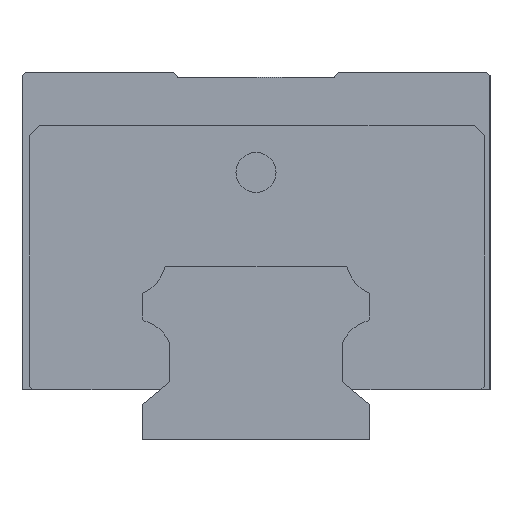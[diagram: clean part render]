
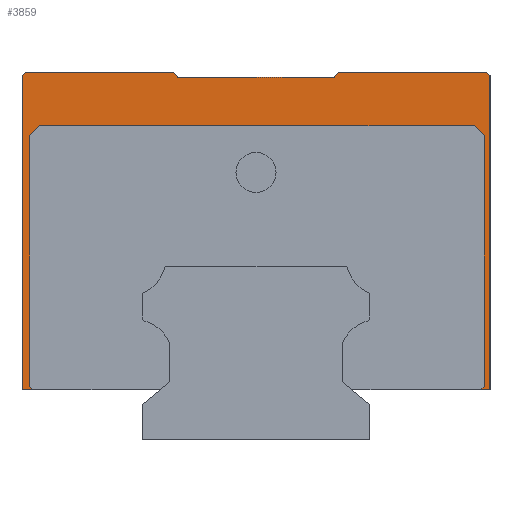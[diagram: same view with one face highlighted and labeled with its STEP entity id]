
A CAD part, left-side view. The second image highlights one B-rep face of the part: STEP entity #3859.
In plain terms, the highlighted planar face has unit normal (-1, 0, 0).
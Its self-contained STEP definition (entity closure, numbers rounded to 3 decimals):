
#14 = CARTESIAN_POINT ( 'NONE',  ( -61.5, -35., 55. ) ) ;
#85 = CARTESIAN_POINT ( 'NONE',  ( -61.5, 35., 7.5 ) ) ;
#238 = VERTEX_POINT ( 'NONE', #2294 ) ;
#302 = ORIENTED_EDGE ( 'NONE', *, *, #772, .F. ) ;
#323 = VERTEX_POINT ( 'NONE', #3578 ) ;
#327 = AXIS2_PLACEMENT_3D ( 'NONE', #1872, #4140, #3259 ) ;
#334 = VECTOR ( 'NONE', #4214, 1000. ) ;
#337 = LINE ( 'NONE', #2172, #5703 ) ;
#349 = CARTESIAN_POINT ( 'NONE',  ( -61.5, -34.128, 8. ) ) ;
#414 = EDGE_CURVE ( 'NONE', #2334, #4968, #5513, .T. ) ;
#430 = VECTOR ( 'NONE', #2985, 1000. ) ;
#494 = LINE ( 'NONE', #3697, #4756 ) ;
#496 = VECTOR ( 'NONE', #5434, 1000. ) ;
#553 = LINE ( 'NONE', #4460, #496 ) ;
#581 = LINE ( 'NONE', #5009, #2427 ) ;
#602 = CARTESIAN_POINT ( 'NONE',  ( -61.5, 33.872, 45.5 ) ) ;
#720 = CARTESIAN_POINT ( 'NONE',  ( -61.5, -35., 54.5 ) ) ;
#769 = LINE ( 'NONE', #5353, #1288 ) ;
#772 = EDGE_CURVE ( 'NONE', #1067, #3411, #5023, .T. ) ;
#810 = EDGE_CURVE ( 'NONE', #3972, #2204, #4301, .T. ) ;
#847 = CARTESIAN_POINT ( 'NONE',  ( -61.5, 34.5, 55. ) ) ;
#945 = FACE_OUTER_BOUND ( 'NONE', #3504, .T. ) ;
#955 = EDGE_CURVE ( 'NONE', #3630, #2608, #4793, .T. ) ;
#964 = CARTESIAN_POINT ( 'NONE',  ( -61.5, -33.628, 7.5 ) ) ;
#1010 = DIRECTION ( 'NONE',  ( 0., 0.707, -0.707 ) ) ;
#1051 = LINE ( 'NONE', #964, #334 ) ;
#1067 = VERTEX_POINT ( 'NONE', #4530 ) ;
#1072 = EDGE_CURVE ( 'NONE', #2204, #1067, #3639, .T. ) ;
#1134 = CARTESIAN_POINT ( 'NONE',  ( -61.5, -35., 54.5 ) ) ;
#1146 = CARTESIAN_POINT ( 'NONE',  ( -61.5, -11.667, 54.25 ) ) ;
#1187 = LINE ( 'NONE', #720, #2203 ) ;
#1263 = VECTOR ( 'NONE', #5281, 1000. ) ;
#1288 = VECTOR ( 'NONE', #4886, 1000. ) ;
#1306 = VERTEX_POINT ( 'NONE', #5133 ) ;
#1362 = CARTESIAN_POINT ( 'NONE',  ( -61.5, 33.872, 8. ) ) ;
#1431 = ORIENTED_EDGE ( 'NONE', *, *, #1829, .T. ) ;
#1458 = DIRECTION ( 'NONE',  ( 0., 1., 0. ) ) ;
#1527 = LINE ( 'NONE', #3790, #1954 ) ;
#1567 = EDGE_CURVE ( 'NONE', #2600, #1876, #4924, .T. ) ;
#1604 = EDGE_CURVE ( 'NONE', #4420, #3350, #553, .T. ) ;
#1715 = VECTOR ( 'NONE', #5483, 1000. ) ;
#1797 = ORIENTED_EDGE ( 'NONE', *, *, #1604, .F. ) ;
#1829 = EDGE_CURVE ( 'NONE', #2600, #3350, #1187, .T. ) ;
#1872 = CARTESIAN_POINT ( 'NONE',  ( -61.5, -35., 55. ) ) ;
#1876 = VERTEX_POINT ( 'NONE', #5741 ) ;
#1925 = ORIENTED_EDGE ( 'NONE', *, *, #2735, .F. ) ;
#1954 = VECTOR ( 'NONE', #2418, 1000. ) ;
#1978 = VERTEX_POINT ( 'NONE', #1362 ) ;
#2029 = VECTOR ( 'NONE', #2542, 1000. ) ;
#2126 = VECTOR ( 'NONE', #1010, 1000. ) ;
#2172 = CARTESIAN_POINT ( 'NONE',  ( -61.5, -34.128, 8. ) ) ;
#2203 = VECTOR ( 'NONE', #2534, 1000. ) ;
#2204 = VERTEX_POINT ( 'NONE', #4362 ) ;
#2263 = EDGE_CURVE ( 'NONE', #1978, #238, #5237, .T. ) ;
#2264 = EDGE_CURVE ( 'NONE', #1876, #323, #2962, .T. ) ;
#2269 = LINE ( 'NONE', #4039, #430 ) ;
#2277 = ORIENTED_EDGE ( 'NONE', *, *, #1567, .F. ) ;
#2294 = CARTESIAN_POINT ( 'NONE',  ( -61.5, 33.372, 7.5 ) ) ;
#2318 = ORIENTED_EDGE ( 'NONE', *, *, #414, .T. ) ;
#2334 = VERTEX_POINT ( 'NONE', #5491 ) ;
#2346 = ORIENTED_EDGE ( 'NONE', *, *, #810, .F. ) ;
#2359 = DIRECTION ( 'NONE',  ( 0., 1., 0. ) ) ;
#2395 = EDGE_CURVE ( 'NONE', #4895, #2608, #4618, .T. ) ;
#2418 = DIRECTION ( 'NONE',  ( 0., -1., 0. ) ) ;
#2427 = VECTOR ( 'NONE', #4987, 1000. ) ;
#2475 = EDGE_CURVE ( 'NONE', #3630, #1306, #1527, .T. ) ;
#2523 = CARTESIAN_POINT ( 'NONE',  ( -61.5, -35., 7.5 ) ) ;
#2534 = DIRECTION ( 'NONE',  ( 0., 0.707, 0.707 ) ) ;
#2542 = DIRECTION ( 'NONE',  ( 0., 0.707, 0.707 ) ) ;
#2578 = DIRECTION ( 'NONE',  ( 0., -0.707, -0.707 ) ) ;
#2600 = VERTEX_POINT ( 'NONE', #1134 ) ;
#2604 = DIRECTION ( 'NONE',  ( 0., 1., 0. ) ) ;
#2608 = VERTEX_POINT ( 'NONE', #5189 ) ;
#2735 = EDGE_CURVE ( 'NONE', #238, #4895, #581, .T. ) ;
#2918 = CARTESIAN_POINT ( 'NONE',  ( -61.5, -12.296, 55. ) ) ;
#2962 = LINE ( 'NONE', #2523, #5558 ) ;
#2985 = DIRECTION ( 'NONE',  ( 0., 0.643, -0.766 ) ) ;
#3046 = CARTESIAN_POINT ( 'NONE',  ( -61.5, 11.667, 54.25 ) ) ;
#3058 = EDGE_CURVE ( 'NONE', #5739, #3972, #337, .T. ) ;
#3138 = PLANE ( 'NONE',  #327 ) ;
#3215 = ORIENTED_EDGE ( 'NONE', *, *, #4135, .T. ) ;
#3259 = DIRECTION ( 'NONE',  ( 0., 1., 0. ) ) ;
#3350 = VERTEX_POINT ( 'NONE', #5621 ) ;
#3400 = CARTESIAN_POINT ( 'NONE',  ( -61.5, -34.128, 45.5 ) ) ;
#3411 = VERTEX_POINT ( 'NONE', #602 ) ;
#3504 = EDGE_LOOP ( 'NONE', ( #4119, #3515, #4410, #2277, #1431, #1797, #3215, #2318, #3521, #5459, #3682, #4041, #1925, #5472, #5607, #302, #4656, #2346 ) ) ;
#3515 = ORIENTED_EDGE ( 'NONE', *, *, #4350, .F. ) ;
#3521 = ORIENTED_EDGE ( 'NONE', *, *, #4975, .T. ) ;
#3560 = CARTESIAN_POINT ( 'NONE',  ( -61.5, 34.5, 55. ) ) ;
#3578 = CARTESIAN_POINT ( 'NONE',  ( -61.5, -33.628, 7.5 ) ) ;
#3630 = VERTEX_POINT ( 'NONE', #3560 ) ;
#3639 = LINE ( 'NONE', #4594, #5401 ) ;
#3682 = ORIENTED_EDGE ( 'NONE', *, *, #955, .T. ) ;
#3697 = CARTESIAN_POINT ( 'NONE',  ( -61.5, 33.872, 45.5 ) ) ;
#3783 = DIRECTION ( 'NONE',  ( 0., 0., -1. ) ) ;
#3790 = CARTESIAN_POINT ( 'NONE',  ( -61.5, 35., 55. ) ) ;
#3859 = ADVANCED_FACE ( 'NONE', ( #945 ), #3138, .F. ) ;
#3887 = CARTESIAN_POINT ( 'NONE',  ( -61.5, 35., 7.5 ) ) ;
#3972 = VERTEX_POINT ( 'NONE', #5581 ) ;
#4039 = CARTESIAN_POINT ( 'NONE',  ( -61.5, -12.296, 55. ) ) ;
#4041 = ORIENTED_EDGE ( 'NONE', *, *, #2395, .F. ) ;
#4119 = ORIENTED_EDGE ( 'NONE', *, *, #3058, .F. ) ;
#4135 = EDGE_CURVE ( 'NONE', #4420, #2334, #2269, .T. ) ;
#4140 = DIRECTION ( 'NONE',  ( 1., 0., 0. ) ) ;
#4158 = VECTOR ( 'NONE', #1458, 1000. ) ;
#4214 = DIRECTION ( 'NONE',  ( 0., -0.707, 0.707 ) ) ;
#4296 = EDGE_CURVE ( 'NONE', #3411, #1978, #494, .T. ) ;
#4301 = LINE ( 'NONE', #3400, #2029 ) ;
#4350 = EDGE_CURVE ( 'NONE', #323, #5739, #1051, .T. ) ;
#4362 = CARTESIAN_POINT ( 'NONE',  ( -61.5, -32.628, 47. ) ) ;
#4410 = ORIENTED_EDGE ( 'NONE', *, *, #2264, .F. ) ;
#4420 = VERTEX_POINT ( 'NONE', #2918 ) ;
#4460 = CARTESIAN_POINT ( 'NONE',  ( -61.5, 35., 55. ) ) ;
#4530 = CARTESIAN_POINT ( 'NONE',  ( -61.5, 32.372, 47. ) ) ;
#4531 = DIRECTION ( 'NONE',  ( 0., 0., 1. ) ) ;
#4534 = VECTOR ( 'NONE', #2578, 1000. ) ;
#4594 = CARTESIAN_POINT ( 'NONE',  ( -61.5, -32.628, 47. ) ) ;
#4618 = LINE ( 'NONE', #85, #5130 ) ;
#4622 = CARTESIAN_POINT ( 'NONE',  ( -61.5, 32.372, 47. ) ) ;
#4656 = ORIENTED_EDGE ( 'NONE', *, *, #1072, .F. ) ;
#4756 = VECTOR ( 'NONE', #3783, 1000. ) ;
#4793 = LINE ( 'NONE', #847, #1263 ) ;
#4886 = DIRECTION ( 'NONE',  ( 0., 0.643, 0.766 ) ) ;
#4895 = VERTEX_POINT ( 'NONE', #3887 ) ;
#4924 = LINE ( 'NONE', #14, #1715 ) ;
#4968 = VERTEX_POINT ( 'NONE', #3046 ) ;
#4975 = EDGE_CURVE ( 'NONE', #4968, #1306, #769, .T. ) ;
#4987 = DIRECTION ( 'NONE',  ( 0., 1., 0. ) ) ;
#5009 = CARTESIAN_POINT ( 'NONE',  ( -61.5, 14.65, 7.5 ) ) ;
#5023 = LINE ( 'NONE', #4622, #2126 ) ;
#5130 = VECTOR ( 'NONE', #4531, 1000. ) ;
#5133 = CARTESIAN_POINT ( 'NONE',  ( -61.5, 12.296, 55. ) ) ;
#5189 = CARTESIAN_POINT ( 'NONE',  ( -61.5, 35., 54.5 ) ) ;
#5237 = LINE ( 'NONE', #5735, #4534 ) ;
#5281 = DIRECTION ( 'NONE',  ( 0., 0.707, -0.707 ) ) ;
#5295 = DIRECTION ( 'NONE',  ( 0., 0., 1. ) ) ;
#5353 = CARTESIAN_POINT ( 'NONE',  ( -61.5, 11.667, 54.25 ) ) ;
#5401 = VECTOR ( 'NONE', #2359, 1000. ) ;
#5434 = DIRECTION ( 'NONE',  ( 0., -1., 0. ) ) ;
#5459 = ORIENTED_EDGE ( 'NONE', *, *, #2475, .F. ) ;
#5472 = ORIENTED_EDGE ( 'NONE', *, *, #2263, .F. ) ;
#5483 = DIRECTION ( 'NONE',  ( 0., 0., -1. ) ) ;
#5491 = CARTESIAN_POINT ( 'NONE',  ( -61.5, -11.667, 54.25 ) ) ;
#5513 = LINE ( 'NONE', #1146, #4158 ) ;
#5558 = VECTOR ( 'NONE', #2604, 1000. ) ;
#5581 = CARTESIAN_POINT ( 'NONE',  ( -61.5, -34.128, 45.5 ) ) ;
#5607 = ORIENTED_EDGE ( 'NONE', *, *, #4296, .F. ) ;
#5621 = CARTESIAN_POINT ( 'NONE',  ( -61.5, -34.5, 55. ) ) ;
#5703 = VECTOR ( 'NONE', #5295, 1000. ) ;
#5735 = CARTESIAN_POINT ( 'NONE',  ( -61.5, 33.872, 8. ) ) ;
#5739 = VERTEX_POINT ( 'NONE', #349 ) ;
#5741 = CARTESIAN_POINT ( 'NONE',  ( -61.5, -35., 7.5 ) ) ;
